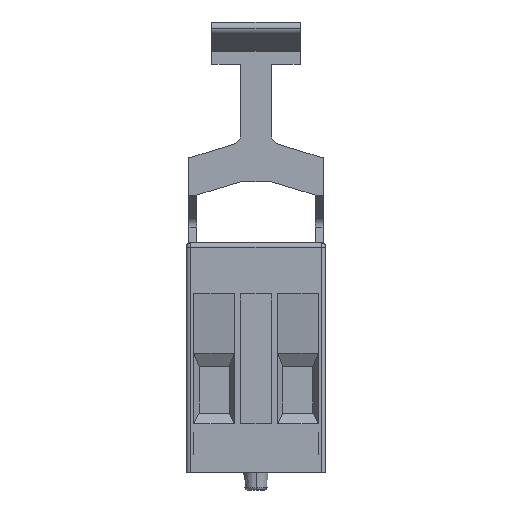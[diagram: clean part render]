
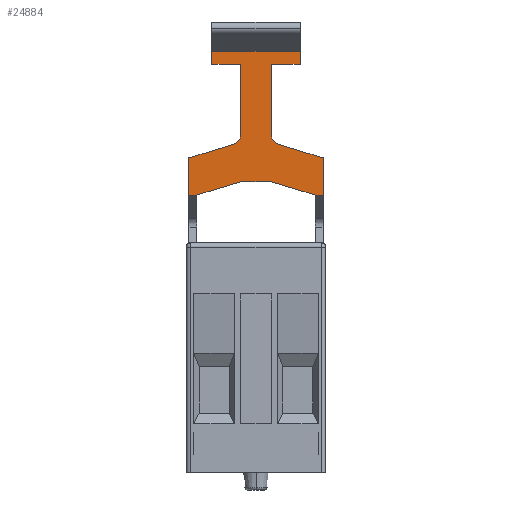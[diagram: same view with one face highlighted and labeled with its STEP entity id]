
A CAD part, front view. The second image highlights one B-rep face of the part: STEP entity #24884.
In plain terms, the highlighted planar face has unit normal (0, -1, 0).
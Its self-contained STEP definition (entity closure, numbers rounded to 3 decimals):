
#271 = CARTESIAN_POINT ( 'NONE',  ( 15.5, 22.159, 33.4 ) ) ;
#610 = LINE ( 'NONE', #21043, #34963 ) ;
#838 = DIRECTION ( 'NONE',  ( 1., 0., 0. ) ) ;
#858 = CARTESIAN_POINT ( 'NONE',  ( 0.3, 22.159, 33.4 ) ) ;
#901 = ORIENTED_EDGE ( 'NONE', *, *, #18606, .T. ) ;
#1125 = CARTESIAN_POINT ( 'NONE',  ( 0.3, 22.159, 37.6 ) ) ;
#1583 = EDGE_CURVE ( 'NONE', #30083, #16473, #18639, .T. ) ;
#2084 = VERTEX_POINT ( 'NONE', #27366 ) ;
#2492 = VERTEX_POINT ( 'NONE', #2984 ) ;
#2782 = DIRECTION ( 'NONE',  ( -1., 0., 0. ) ) ;
#2969 = ORIENTED_EDGE ( 'NONE', *, *, #9960, .T. ) ;
#2973 = CIRCLE ( 'NONE', #7290, 1. ) ;
#2984 = CARTESIAN_POINT ( 'NONE',  ( 9.65, 22.159, 34.9 ) ) ;
#3058 = LINE ( 'NONE', #16566, #33874 ) ;
#3584 = CARTESIAN_POINT ( 'NONE',  ( 12.9, 22.159, 48.2 ) ) ;
#3772 = VERTEX_POINT ( 'NONE', #7427 ) ;
#3941 = ORIENTED_EDGE ( 'NONE', *, *, #22016, .T. ) ;
#4239 = VERTEX_POINT ( 'NONE', #8059 ) ;
#4409 = VERTEX_POINT ( 'NONE', #36731 ) ;
#5059 = CARTESIAN_POINT ( 'NONE',  ( 5.15, 22.159, 40.139 ) ) ;
#5277 = VECTOR ( 'NONE', #25062, 1000. ) ;
#5413 = PLANE ( 'NONE',  #18861 ) ;
#5613 = ORIENTED_EDGE ( 'NONE', *, *, #12771, .F. ) ;
#5950 = VECTOR ( 'NONE', #43447, 1000. ) ;
#6706 = DIRECTION ( 'NONE',  ( -1., 0., 0. ) ) ;
#6781 = CARTESIAN_POINT ( 'NONE',  ( 9.65, 22.159, 39.4 ) ) ;
#7009 = ORIENTED_EDGE ( 'NONE', *, *, #23810, .T. ) ;
#7051 = EDGE_CURVE ( 'NONE', #41824, #27892, #10500, .T. ) ;
#7290 = AXIS2_PLACEMENT_3D ( 'NONE', #16879, #27309, #37912 ) ;
#7427 = CARTESIAN_POINT ( 'NONE',  ( 1.2, 22.159, 33.4 ) ) ;
#7793 = EDGE_CURVE ( 'NONE', #27198, #22900, #2973, .T. ) ;
#8007 = VERTEX_POINT ( 'NONE', #31950 ) ;
#8059 = CARTESIAN_POINT ( 'NONE',  ( 12.9, 22.159, 48.2 ) ) ;
#8077 = EDGE_CURVE ( 'NONE', #16473, #27906, #610, .T. ) ;
#8411 = VECTOR ( 'NONE', #20301, 1000. ) ;
#8622 = DIRECTION ( 'NONE',  ( 0., 0., -1. ) ) ;
#9278 = CARTESIAN_POINT ( 'NONE',  ( 2.9, 22.159, 48.2 ) ) ;
#9960 = EDGE_CURVE ( 'NONE', #40747, #2492, #13002, .T. ) ;
#10173 = ORIENTED_EDGE ( 'NONE', *, *, #26610, .T. ) ;
#10500 = LINE ( 'NONE', #43680, #29828 ) ;
#10841 = VECTOR ( 'NONE', #6706, 1000. ) ;
#11420 = DIRECTION ( 'NONE',  ( 0., 0., -1. ) ) ;
#12695 = ORIENTED_EDGE ( 'NONE', *, *, #1583, .T. ) ;
#12771 = EDGE_CURVE ( 'NONE', #4239, #40640, #15862, .T. ) ;
#12915 = VECTOR ( 'NONE', #14888, 1000. ) ;
#13002 = LINE ( 'NONE', #19844, #42158 ) ;
#13248 = CARTESIAN_POINT ( 'NONE',  ( 5.444, 22.159, 39.183 ) ) ;
#13356 = DIRECTION ( 'NONE',  ( 0., 0., 1. ) ) ;
#13828 = DIRECTION ( 'NONE',  ( 1., 0., 0. ) ) ;
#14197 = EDGE_CURVE ( 'NONE', #27892, #27198, #31368, .T. ) ;
#14235 = DIRECTION ( 'NONE',  ( 0.957, 0., 0.29 ) ) ;
#14462 = CARTESIAN_POINT ( 'NONE',  ( 1.2, 22.159, 33.4 ) ) ;
#14888 = DIRECTION ( 'NONE',  ( 0., 0., -1. ) ) ;
#15862 = LINE ( 'NONE', #29626, #35781 ) ;
#16313 = VECTOR ( 'NONE', #14235, 1000. ) ;
#16473 = VERTEX_POINT ( 'NONE', #27344 ) ;
#16566 = CARTESIAN_POINT ( 'NONE',  ( 12.9, 22.159, 49.7 ) ) ;
#16820 = DIRECTION ( 'NONE',  ( 0., 0., -1. ) ) ;
#16879 = CARTESIAN_POINT ( 'NONE',  ( 10.65, 22.159, 40.139 ) ) ;
#16923 = EDGE_LOOP ( 'NONE', ( #32597, #33181, #36421, #5613, #41602, #10173, #32942, #35534, #3941, #18867, #12695, #25214, #7009, #41034, #2969, #17385, #901, #28839 ) ) ;
#17136 = EDGE_CURVE ( 'NONE', #4409, #30083, #20244, .T. ) ;
#17385 = ORIENTED_EDGE ( 'NONE', *, *, #23708, .T. ) ;
#17723 = LINE ( 'NONE', #31260, #5277 ) ;
#17989 = DIRECTION ( 'NONE',  ( -0.956, 0., -0.294 ) ) ;
#18052 = DIRECTION ( 'NONE',  ( -0.956, 0., 0.294 ) ) ;
#18606 = EDGE_CURVE ( 'NONE', #2084, #41824, #37275, .T. ) ;
#18639 = LINE ( 'NONE', #1125, #33191 ) ;
#18861 = AXIS2_PLACEMENT_3D ( 'NONE', #29360, #18925, #26028 ) ;
#18867 = ORIENTED_EDGE ( 'NONE', *, *, #17136, .T. ) ;
#18925 = DIRECTION ( 'NONE',  ( 0., -1., 0. ) ) ;
#19844 = CARTESIAN_POINT ( 'NONE',  ( 6.15, 22.159, 34.9 ) ) ;
#20244 = CIRCLE ( 'NONE', #35751, 1. ) ;
#20301 = DIRECTION ( 'NONE',  ( 0., 0., 1. ) ) ;
#20532 = CARTESIAN_POINT ( 'NONE',  ( 6.15, 22.159, 48.2 ) ) ;
#21043 = CARTESIAN_POINT ( 'NONE',  ( 0.3, 22.159, 33.4 ) ) ;
#21591 = CARTESIAN_POINT ( 'NONE',  ( 12.9, 22.159, 48.2 ) ) ;
#21903 = LINE ( 'NONE', #9278, #24076 ) ;
#22016 = EDGE_CURVE ( 'NONE', #24757, #4409, #32362, .T. ) ;
#22462 = CARTESIAN_POINT ( 'NONE',  ( 6.15, 22.159, 34.9 ) ) ;
#22483 = FACE_OUTER_BOUND ( 'NONE', #16923, .T. ) ;
#22797 = DIRECTION ( 'NONE',  ( -1., 0., 0. ) ) ;
#22900 = VERTEX_POINT ( 'NONE', #33369 ) ;
#23075 = LINE ( 'NONE', #36550, #5950 ) ;
#23082 = CARTESIAN_POINT ( 'NONE',  ( 2.9, 22.159, 48.2 ) ) ;
#23708 = EDGE_CURVE ( 'NONE', #2492, #2084, #23075, .T. ) ;
#23715 = CARTESIAN_POINT ( 'NONE',  ( 15.5, 22.159, 37.6 ) ) ;
#23810 = EDGE_CURVE ( 'NONE', #27906, #3772, #17723, .T. ) ;
#24076 = VECTOR ( 'NONE', #8622, 1000. ) ;
#24757 = VERTEX_POINT ( 'NONE', #20532 ) ;
#24884 = ADVANCED_FACE ( 'NONE', ( #22483 ), #5413, .T. ) ;
#24923 = LINE ( 'NONE', #21591, #31147 ) ;
#25062 = DIRECTION ( 'NONE',  ( 1., 0., 0. ) ) ;
#25214 = ORIENTED_EDGE ( 'NONE', *, *, #8077, .T. ) ;
#26028 = DIRECTION ( 'NONE',  ( 1., 0., 0. ) ) ;
#26175 = EDGE_CURVE ( 'NONE', #22900, #40640, #43543, .T. ) ;
#26610 = EDGE_CURVE ( 'NONE', #8007, #28252, #3058, .T. ) ;
#27009 = VECTOR ( 'NONE', #18052, 1000. ) ;
#27198 = VERTEX_POINT ( 'NONE', #35727 ) ;
#27309 = DIRECTION ( 'NONE',  ( 0., 1., 0. ) ) ;
#27344 = CARTESIAN_POINT ( 'NONE',  ( 0.3, 22.159, 37.6 ) ) ;
#27366 = CARTESIAN_POINT ( 'NONE',  ( 14.6, 22.159, 33.4 ) ) ;
#27417 = CARTESIAN_POINT ( 'NONE',  ( 9.65, 22.159, 48.2 ) ) ;
#27832 = CARTESIAN_POINT ( 'NONE',  ( 15.5, 22.159, 33.4 ) ) ;
#27892 = VERTEX_POINT ( 'NONE', #23715 ) ;
#27906 = VERTEX_POINT ( 'NONE', #858 ) ;
#27986 = CARTESIAN_POINT ( 'NONE',  ( 6.15, 22.159, 39.4 ) ) ;
#28252 = VERTEX_POINT ( 'NONE', #41979 ) ;
#28499 = EDGE_CURVE ( 'NONE', #3772, #40747, #30869, .T. ) ;
#28817 = EDGE_CURVE ( 'NONE', #8007, #4239, #24923, .T. ) ;
#28839 = ORIENTED_EDGE ( 'NONE', *, *, #7051, .T. ) ;
#29184 = DIRECTION ( 'NONE',  ( 1., 0., 0. ) ) ;
#29360 = CARTESIAN_POINT ( 'NONE',  ( 7.9, 22.159, 34.9 ) ) ;
#29626 = CARTESIAN_POINT ( 'NONE',  ( 12.9, 22.159, 48.2 ) ) ;
#29828 = VECTOR ( 'NONE', #13356, 1000. ) ;
#29901 = VECTOR ( 'NONE', #13828, 1000. ) ;
#30083 = VERTEX_POINT ( 'NONE', #13248 ) ;
#30869 = LINE ( 'NONE', #14462, #16313 ) ;
#31147 = VECTOR ( 'NONE', #11420, 1000. ) ;
#31260 = CARTESIAN_POINT ( 'NONE',  ( 0.3, 22.159, 33.4 ) ) ;
#31368 = LINE ( 'NONE', #34645, #27009 ) ;
#31950 = CARTESIAN_POINT ( 'NONE',  ( 12.9, 22.159, 49.7 ) ) ;
#32362 = LINE ( 'NONE', #27986, #12915 ) ;
#32597 = ORIENTED_EDGE ( 'NONE', *, *, #14197, .T. ) ;
#32942 = ORIENTED_EDGE ( 'NONE', *, *, #35357, .T. ) ;
#33181 = ORIENTED_EDGE ( 'NONE', *, *, #7793, .T. ) ;
#33191 = VECTOR ( 'NONE', #17989, 1000. ) ;
#33369 = CARTESIAN_POINT ( 'NONE',  ( 9.65, 22.159, 40.139 ) ) ;
#33874 = VECTOR ( 'NONE', #22797, 1000. ) ;
#33916 = LINE ( 'NONE', #3584, #10841 ) ;
#34645 = CARTESIAN_POINT ( 'NONE',  ( 15.5, 22.159, 37.6 ) ) ;
#34963 = VECTOR ( 'NONE', #16820, 1000. ) ;
#35357 = EDGE_CURVE ( 'NONE', #28252, #38781, #21903, .T. ) ;
#35534 = ORIENTED_EDGE ( 'NONE', *, *, #37228, .F. ) ;
#35727 = CARTESIAN_POINT ( 'NONE',  ( 10.356, 22.159, 39.183 ) ) ;
#35751 = AXIS2_PLACEMENT_3D ( 'NONE', #5059, #38060, #838 ) ;
#35781 = VECTOR ( 'NONE', #2782, 1000. ) ;
#36421 = ORIENTED_EDGE ( 'NONE', *, *, #26175, .T. ) ;
#36550 = CARTESIAN_POINT ( 'NONE',  ( 14.6, 22.159, 33.4 ) ) ;
#36731 = CARTESIAN_POINT ( 'NONE',  ( 6.15, 22.159, 40.139 ) ) ;
#37228 = EDGE_CURVE ( 'NONE', #24757, #38781, #33916, .T. ) ;
#37275 = LINE ( 'NONE', #271, #29901 ) ;
#37912 = DIRECTION ( 'NONE',  ( 1., 0., 0. ) ) ;
#38060 = DIRECTION ( 'NONE',  ( 0., 1., 0. ) ) ;
#38781 = VERTEX_POINT ( 'NONE', #23082 ) ;
#40640 = VERTEX_POINT ( 'NONE', #27417 ) ;
#40747 = VERTEX_POINT ( 'NONE', #22462 ) ;
#41034 = ORIENTED_EDGE ( 'NONE', *, *, #28499, .T. ) ;
#41602 = ORIENTED_EDGE ( 'NONE', *, *, #28817, .F. ) ;
#41824 = VERTEX_POINT ( 'NONE', #27832 ) ;
#41979 = CARTESIAN_POINT ( 'NONE',  ( 2.9, 22.159, 49.7 ) ) ;
#42158 = VECTOR ( 'NONE', #29184, 1000. ) ;
#43447 = DIRECTION ( 'NONE',  ( 0.957, 0., -0.29 ) ) ;
#43543 = LINE ( 'NONE', #6781, #8411 ) ;
#43680 = CARTESIAN_POINT ( 'NONE',  ( 15.5, 22.159, 33.4 ) ) ;
